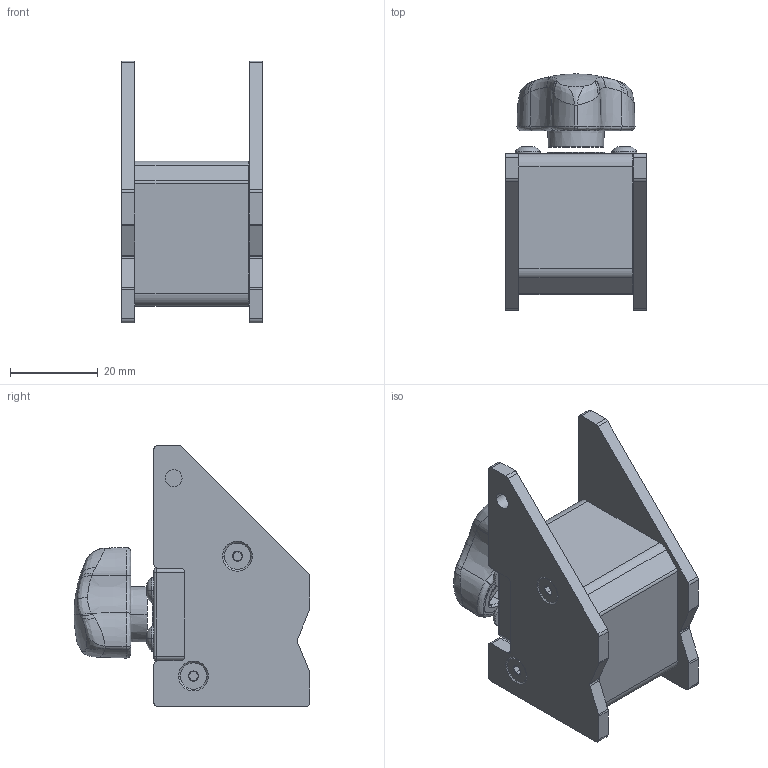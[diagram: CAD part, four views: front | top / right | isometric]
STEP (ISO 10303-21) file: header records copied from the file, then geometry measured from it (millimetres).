
FILE_DESCRIPTION (( 'STEP AP203' ), '1' );
FILE_NAME ('8000352_rev2.STEP', '2013-10-02T17:16:03', ( '' ), ( '' ), 'SwSTEP 2.0', 'SolidWorks 2010', '' );
FILE_SCHEMA (( 'CONFIG_CONTROL_DESIGN' ));
Length unit declared in the file: millimetre
Products named in the file (1): 8000352_rev2
Bounding box: 32 x 53.67 x 59.5 mm (x, y, z)
Surface area: 15120.1 mm2 (no closed solid volume)
Topology: 0 solids, 17 shells, 323 faces, 956 edges, 647 vertices
Faces by surface type: plane 109, cone 73, cylinder 68, bspline 61, torus 12
Entity records: 16703 total; most frequent: CARTESIAN_POINT 8839, ORIENTED_EDGE 1673, DIRECTION 1395, EDGE_CURVE 954, VERTEX_POINT 647, AXIS2_PLACEMENT_3D 536, EDGE_LOOP 347, B_SPLINE_CURVE_WITH_KNOTS 325
